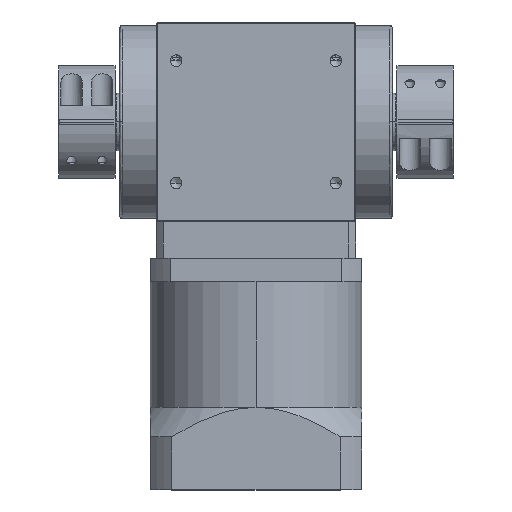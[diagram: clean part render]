
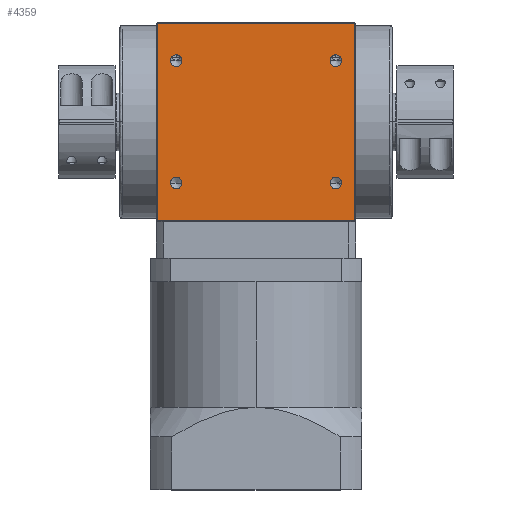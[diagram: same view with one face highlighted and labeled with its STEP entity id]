
A CAD part, top view. The second image highlights one B-rep face of the part: STEP entity #4359.
In plain terms, the highlighted planar face has unit normal (0, 0, 1).
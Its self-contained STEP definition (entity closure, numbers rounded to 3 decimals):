
#15 = EDGE_LOOP ( 'NONE', ( #12234, #12680 ) ) ;
#107 = ORIENTED_EDGE ( 'NONE', *, *, #10406, .F. ) ;
#462 = CARTESIAN_POINT ( 'NONE',  ( -42., 42., 42.5 ) ) ;
#530 = FACE_OUTER_BOUND ( 'NONE', #5298, .T. ) ;
#544 = CARTESIAN_POINT ( 'NONE',  ( -34., -26., 42.5 ) ) ;
#800 = CARTESIAN_POINT ( 'NONE',  ( -36.5, -26., 42.5 ) ) ;
#1036 = CARTESIAN_POINT ( 'NONE',  ( 42., 42., 42.5 ) ) ;
#1066 = FACE_BOUND ( 'NONE', #11773, .T. ) ;
#1368 = FACE_BOUND ( 'NONE', #15, .T. ) ;
#1380 = AXIS2_PLACEMENT_3D ( 'NONE', #4040, #4033, #4029 ) ;
#1600 = DIRECTION ( 'NONE',  ( 1., 0., 0. ) ) ;
#1619 = VERTEX_POINT ( 'NONE', #10504 ) ;
#1731 = ORIENTED_EDGE ( 'NONE', *, *, #9217, .F. ) ;
#1753 = CIRCLE ( 'NONE', #4089, 2.5 ) ;
#1792 = VERTEX_POINT ( 'NONE', #8886 ) ;
#1956 = CARTESIAN_POINT ( 'NONE',  ( -31.5, -26., 42.5 ) ) ;
#2157 = ORIENTED_EDGE ( 'NONE', *, *, #7762, .F. ) ;
#2307 = ORIENTED_EDGE ( 'NONE', *, *, #10167, .F. ) ;
#2326 = EDGE_CURVE ( 'NONE', #1792, #4219, #3944, .T. ) ;
#2333 = DIRECTION ( 'NONE',  ( 1., 0., 0. ) ) ;
#2347 = DIRECTION ( 'NONE',  ( 0., 0., 1. ) ) ;
#2356 = CARTESIAN_POINT ( 'NONE',  ( 34., 26., 42.5 ) ) ;
#2665 = CARTESIAN_POINT ( 'NONE',  ( 42., -42., 42.5 ) ) ;
#2696 = CARTESIAN_POINT ( 'NONE',  ( -34., 26., 42.5 ) ) ;
#2882 = EDGE_CURVE ( 'NONE', #3752, #10242, #12611, .T. ) ;
#3037 = DIRECTION ( 'NONE',  ( 0., 0., 1. ) ) ;
#3170 = CIRCLE ( 'NONE', #11884, 2.5 ) ;
#3196 = VECTOR ( 'NONE', #3439, 1000. ) ;
#3198 = VECTOR ( 'NONE', #9211, 1000. ) ;
#3439 = DIRECTION ( 'NONE',  ( 0., 1., 0. ) ) ;
#3705 = DIRECTION ( 'NONE',  ( 1., 0., 0. ) ) ;
#3752 = VERTEX_POINT ( 'NONE', #12857 ) ;
#3803 = AXIS2_PLACEMENT_3D ( 'NONE', #11055, #5014, #11997 ) ;
#3944 = CIRCLE ( 'NONE', #1380, 2.5 ) ;
#4002 = DIRECTION ( 'NONE',  ( 0., -1., 0. ) ) ;
#4029 = DIRECTION ( 'NONE',  ( 1., 0., 0. ) ) ;
#4033 = DIRECTION ( 'NONE',  ( 0., 0., 1. ) ) ;
#4040 = CARTESIAN_POINT ( 'NONE',  ( 34., 26., 42.5 ) ) ;
#4089 = AXIS2_PLACEMENT_3D ( 'NONE', #2696, #9785, #3705 ) ;
#4219 = VERTEX_POINT ( 'NONE', #10133 ) ;
#4269 = CARTESIAN_POINT ( 'NONE',  ( -42., -42., 42.5 ) ) ;
#4359 = ADVANCED_FACE ( 'NONE', ( #530, #1368, #8561, #1066, #6382 ), #9344, .F. ) ;
#4501 = LINE ( 'NONE', #10501, #3196 ) ;
#4624 = CARTESIAN_POINT ( 'NONE',  ( 34., -26., 42.5 ) ) ;
#4633 = ORIENTED_EDGE ( 'NONE', *, *, #9942, .F. ) ;
#5014 = DIRECTION ( 'NONE',  ( 0., 0., 1. ) ) ;
#5095 = AXIS2_PLACEMENT_3D ( 'NONE', #9207, #9205, #9190 ) ;
#5103 = ORIENTED_EDGE ( 'NONE', *, *, #9486, .F. ) ;
#5114 = ORIENTED_EDGE ( 'NONE', *, *, #8202, .F. ) ;
#5155 = VERTEX_POINT ( 'NONE', #4269 ) ;
#5201 = AXIS2_PLACEMENT_3D ( 'NONE', #2356, #2347, #2333 ) ;
#5266 = CARTESIAN_POINT ( 'NONE',  ( -36.5, 26., 42.5 ) ) ;
#5268 = VECTOR ( 'NONE', #4002, 1000. ) ;
#5298 = EDGE_LOOP ( 'NONE', ( #9639, #2307, #1731, #4633 ) ) ;
#5440 = EDGE_CURVE ( 'NONE', #4219, #1792, #11252, .T. ) ;
#5541 = CIRCLE ( 'NONE', #9081, 2.5 ) ;
#5590 = CARTESIAN_POINT ( 'NONE',  ( 34., -26., 42.5 ) ) ;
#5646 = DIRECTION ( 'NONE',  ( 1., 0., 0. ) ) ;
#5698 = VERTEX_POINT ( 'NONE', #800 ) ;
#5967 = AXIS2_PLACEMENT_3D ( 'NONE', #9111, #3037, #10127 ) ;
#6382 = FACE_BOUND ( 'NONE', #9055, .T. ) ;
#6588 = DIRECTION ( 'NONE',  ( 1., 0., 0. ) ) ;
#7329 = CARTESIAN_POINT ( 'NONE',  ( 42., -42., 42.5 ) ) ;
#7558 = CIRCLE ( 'NONE', #3803, 2.5 ) ;
#7667 = DIRECTION ( 'NONE',  ( 0., 0., 1. ) ) ;
#7762 = EDGE_CURVE ( 'NONE', #11684, #5698, #11848, .T. ) ;
#7918 = LINE ( 'NONE', #2665, #9049 ) ;
#7937 = CARTESIAN_POINT ( 'NONE',  ( 42., -42., 42.5 ) ) ;
#7964 = ORIENTED_EDGE ( 'NONE', *, *, #8186, .F. ) ;
#8186 = EDGE_CURVE ( 'NONE', #12522, #11527, #3170, .T. ) ;
#8202 = EDGE_CURVE ( 'NONE', #11527, #12522, #5541, .T. ) ;
#8561 = FACE_BOUND ( 'NONE', #10868, .T. ) ;
#8562 = VERTEX_POINT ( 'NONE', #5266 ) ;
#8713 = DIRECTION ( 'NONE',  ( -1., 0., 0. ) ) ;
#8843 = CARTESIAN_POINT ( 'NONE',  ( 31.5, -26., 42.5 ) ) ;
#8886 = CARTESIAN_POINT ( 'NONE',  ( 31.5, 26., 42.5 ) ) ;
#8987 = EDGE_CURVE ( 'NONE', #5698, #11684, #9929, .T. ) ;
#9049 = VECTOR ( 'NONE', #8713, 1000. ) ;
#9055 = EDGE_LOOP ( 'NONE', ( #5103, #107 ) ) ;
#9081 = AXIS2_PLACEMENT_3D ( 'NONE', #4624, #11630, #5646 ) ;
#9111 = CARTESIAN_POINT ( 'NONE',  ( -34., -26., 42.5 ) ) ;
#9190 = DIRECTION ( 'NONE',  ( -1., 0., 0. ) ) ;
#9205 = DIRECTION ( 'NONE',  ( 0., 0., -1. ) ) ;
#9207 = CARTESIAN_POINT ( 'NONE',  ( 42., -42., 42.5 ) ) ;
#9211 = DIRECTION ( 'NONE',  ( 1., 0., 0. ) ) ;
#9217 = EDGE_CURVE ( 'NONE', #5155, #10359, #4501, .T. ) ;
#9344 = PLANE ( 'NONE',  #5095 ) ;
#9486 = EDGE_CURVE ( 'NONE', #1619, #8562, #7558, .T. ) ;
#9639 = ORIENTED_EDGE ( 'NONE', *, *, #2882, .F. ) ;
#9785 = DIRECTION ( 'NONE',  ( 0., 0., 1. ) ) ;
#9929 = CIRCLE ( 'NONE', #5967, 2.5 ) ;
#9942 = EDGE_CURVE ( 'NONE', #10242, #5155, #7918, .T. ) ;
#10127 = DIRECTION ( 'NONE',  ( 1., 0., 0. ) ) ;
#10133 = CARTESIAN_POINT ( 'NONE',  ( 36.5, 26., 42.5 ) ) ;
#10167 = EDGE_CURVE ( 'NONE', #10359, #3752, #10497, .T. ) ;
#10242 = VERTEX_POINT ( 'NONE', #7329 ) ;
#10243 = ORIENTED_EDGE ( 'NONE', *, *, #8987, .F. ) ;
#10359 = VERTEX_POINT ( 'NONE', #462 ) ;
#10396 = CARTESIAN_POINT ( 'NONE',  ( 36.5, -26., 42.5 ) ) ;
#10406 = EDGE_CURVE ( 'NONE', #8562, #1619, #1753, .T. ) ;
#10497 = LINE ( 'NONE', #1036, #3198 ) ;
#10501 = CARTESIAN_POINT ( 'NONE',  ( -42., -42., 42.5 ) ) ;
#10504 = CARTESIAN_POINT ( 'NONE',  ( -31.5, 26., 42.5 ) ) ;
#10868 = EDGE_LOOP ( 'NONE', ( #2157, #10243 ) ) ;
#11055 = CARTESIAN_POINT ( 'NONE',  ( -34., 26., 42.5 ) ) ;
#11201 = AXIS2_PLACEMENT_3D ( 'NONE', #544, #7667, #1600 ) ;
#11252 = CIRCLE ( 'NONE', #5201, 2.5 ) ;
#11527 = VERTEX_POINT ( 'NONE', #8843 ) ;
#11630 = DIRECTION ( 'NONE',  ( 0., 0., 1. ) ) ;
#11684 = VERTEX_POINT ( 'NONE', #1956 ) ;
#11773 = EDGE_LOOP ( 'NONE', ( #7964, #5114 ) ) ;
#11848 = CIRCLE ( 'NONE', #11201, 2.5 ) ;
#11884 = AXIS2_PLACEMENT_3D ( 'NONE', #5590, #12538, #6588 ) ;
#11997 = DIRECTION ( 'NONE',  ( 1., 0., 0. ) ) ;
#12234 = ORIENTED_EDGE ( 'NONE', *, *, #5440, .F. ) ;
#12522 = VERTEX_POINT ( 'NONE', #10396 ) ;
#12538 = DIRECTION ( 'NONE',  ( 0., 0., 1. ) ) ;
#12611 = LINE ( 'NONE', #7937, #5268 ) ;
#12680 = ORIENTED_EDGE ( 'NONE', *, *, #2326, .F. ) ;
#12857 = CARTESIAN_POINT ( 'NONE',  ( 42., 42., 42.5 ) ) ;
